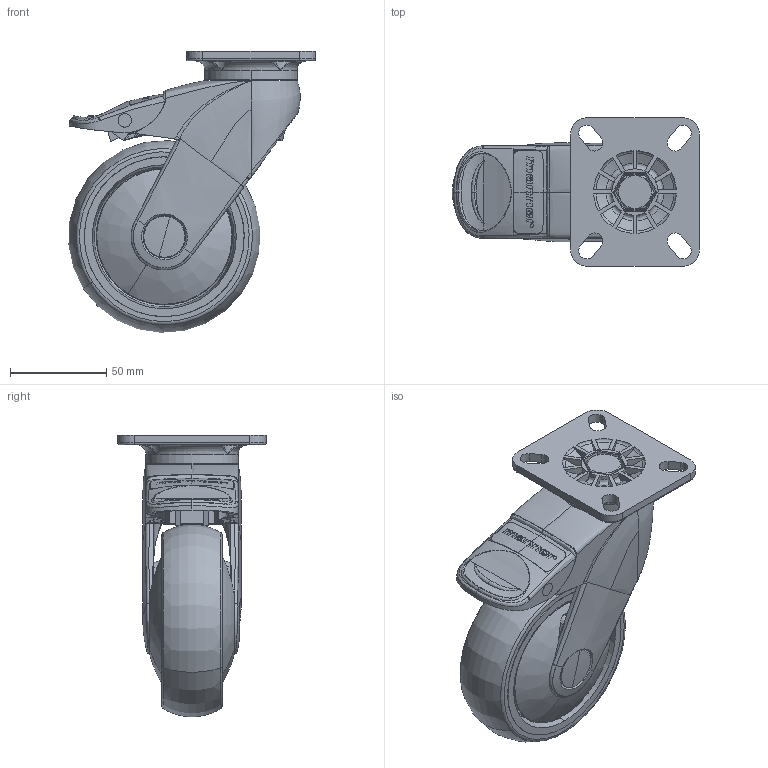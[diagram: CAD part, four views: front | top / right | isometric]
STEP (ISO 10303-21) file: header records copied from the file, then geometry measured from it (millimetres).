
FILE_DESCRIPTION (( 'STEP AP203' ), '1' );
FILE_NAME ('301807_STEP.STEP', '2011-06-22T07:09:40', ( '' ), ( '' ), 'SwSTEP 2.0', 'SolidWorks 2011', '' );
FILE_SCHEMA (( 'CONFIG_CONTROL_DESIGN' ));
Length unit declared in the file: millimetre
Products named in the file (1): 301807_STEP
Bounding box: 128.25 x 77 x 146.14 mm (x, y, z)
Surface area: 97799.6 mm2 (no closed solid volume)
Topology: 0 solids, 28 shells, 760 faces, 3716 edges, 2901 vertices
Faces by surface type: bspline 367, plane 171, cylinder 145, cone 50, torus 27
Entity records: 96907 total; most frequent: CARTESIAN_POINT 73720, ORIENTED_EDGE 6176, EDGE_CURVE 3706, VERTEX_POINT 2901, B_SPLINE_CURVE_WITH_KNOTS 2412, DIRECTION 2338, AXIS2_PLACEMENT_3D 830, EDGE_LOOP 801
